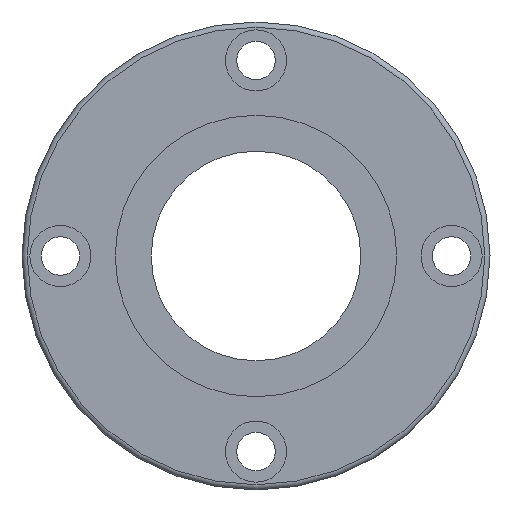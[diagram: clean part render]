
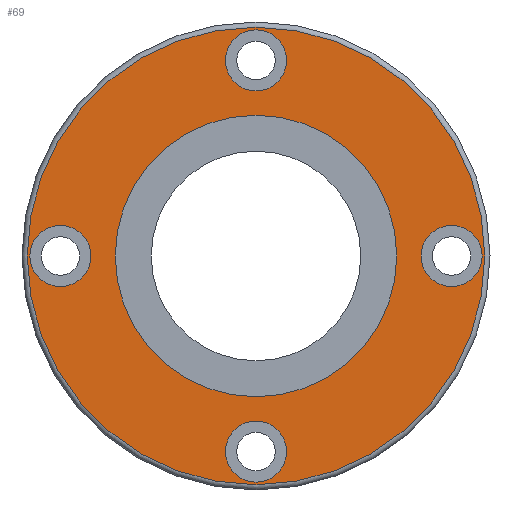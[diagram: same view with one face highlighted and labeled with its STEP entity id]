
A CAD part, left-side view. The second image highlights one B-rep face of the part: STEP entity #69.
In plain terms, the highlighted planar face has unit normal (-1, 0, 0).
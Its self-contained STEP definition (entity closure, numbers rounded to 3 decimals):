
#69 = ADVANCED_FACE( '', ( #162, #163, #164, #165, #166, #167 ), #168, .T. );
#162 = FACE_BOUND( '', #285, .T. );
#163 = FACE_BOUND( '', #286, .T. );
#164 = FACE_BOUND( '', #287, .T. );
#165 = FACE_BOUND( '', #288, .T. );
#166 = FACE_BOUND( '', #289, .T. );
#167 = FACE_OUTER_BOUND( '', #290, .T. );
#168 = PLANE( '', #291 );
#285 = EDGE_LOOP( '', ( #420 ) );
#286 = EDGE_LOOP( '', ( #421 ) );
#287 = EDGE_LOOP( '', ( #422 ) );
#288 = EDGE_LOOP( '', ( #423 ) );
#289 = EDGE_LOOP( '', ( #424 ) );
#290 = EDGE_LOOP( '', ( #425 ) );
#291 = AXIS2_PLACEMENT_3D( '', #426, #427, #428 );
#420 = ORIENTED_EDGE( '', *, *, #559, .T. );
#421 = ORIENTED_EDGE( '', *, *, #560, .T. );
#422 = ORIENTED_EDGE( '', *, *, #561, .T. );
#423 = ORIENTED_EDGE( '', *, *, #562, .T. );
#424 = ORIENTED_EDGE( '', *, *, #563, .F. );
#425 = ORIENTED_EDGE( '', *, *, #556, .T. );
#426 = CARTESIAN_POINT( '', ( 0., 53.55, 0. ) );
#427 = DIRECTION( '', ( -1., 0., 0. ) );
#428 = DIRECTION( '', ( 0., 1., 0. ) );
#556 = EDGE_CURVE( '', #630, #630, #631, .T. );
#559 = EDGE_CURVE( '', #635, #635, #636, .T. );
#560 = EDGE_CURVE( '', #637, #637, #638, .T. );
#561 = EDGE_CURVE( '', #639, #639, #640, .T. );
#562 = EDGE_CURVE( '', #641, #641, #642, .T. );
#563 = EDGE_CURVE( '', #643, #643, #644, .T. );
#630 = VERTEX_POINT( '', #719 );
#631 = CIRCLE( '', #720, 65.5 );
#635 = VERTEX_POINT( '', #724 );
#636 = CIRCLE( '', #725, 8.75 );
#637 = VERTEX_POINT( '', #726 );
#638 = CIRCLE( '', #727, 8.75 );
#639 = VERTEX_POINT( '', #728 );
#640 = CIRCLE( '', #729, 8.75 );
#641 = VERTEX_POINT( '', #730 );
#642 = CIRCLE( '', #731, 8.75 );
#643 = VERTEX_POINT( '', #732 );
#644 = CIRCLE( '', #733, 40.3 );
#719 = CARTESIAN_POINT( '', ( 0., 65.5, 0. ) );
#720 = AXIS2_PLACEMENT_3D( '', #815, #816, #817 );
#724 = CARTESIAN_POINT( '', ( 0., 0., -64.75 ) );
#725 = AXIS2_PLACEMENT_3D( '', #821, #822, #823 );
#726 = CARTESIAN_POINT( '', ( 0., 0., 64.75 ) );
#727 = AXIS2_PLACEMENT_3D( '', #824, #825, #826 );
#728 = CARTESIAN_POINT( '', ( 0., 64.75, 0. ) );
#729 = AXIS2_PLACEMENT_3D( '', #827, #828, #829 );
#730 = CARTESIAN_POINT( '', ( 0., -64.75, 0. ) );
#731 = AXIS2_PLACEMENT_3D( '', #830, #831, #832 );
#732 = CARTESIAN_POINT( '', ( 0., 40.3, 0. ) );
#733 = AXIS2_PLACEMENT_3D( '', #833, #834, #835 );
#815 = CARTESIAN_POINT( '', ( 0., 0., 0. ) );
#816 = DIRECTION( '', ( -1., 0., 0. ) );
#817 = DIRECTION( '', ( 0., 0., 1. ) );
#821 = CARTESIAN_POINT( '', ( 0., 0., -56. ) );
#822 = DIRECTION( '', ( 1., 0., 0. ) );
#823 = DIRECTION( '', ( 0., 0., -1. ) );
#824 = CARTESIAN_POINT( '', ( 0., 0., 56. ) );
#825 = DIRECTION( '', ( 1., 0., 0. ) );
#826 = DIRECTION( '', ( 0., 0., 1. ) );
#827 = CARTESIAN_POINT( '', ( 0., 56., 0. ) );
#828 = DIRECTION( '', ( 1., 0., 0. ) );
#829 = DIRECTION( '', ( 0., 1., 0. ) );
#830 = CARTESIAN_POINT( '', ( 0., -56., 0. ) );
#831 = DIRECTION( '', ( 1., 0., 0. ) );
#832 = DIRECTION( '', ( 0., -1., 0. ) );
#833 = CARTESIAN_POINT( '', ( 0., 0., 0. ) );
#834 = DIRECTION( '', ( -1., 0., 0. ) );
#835 = DIRECTION( '', ( 0., 1., 0. ) );
